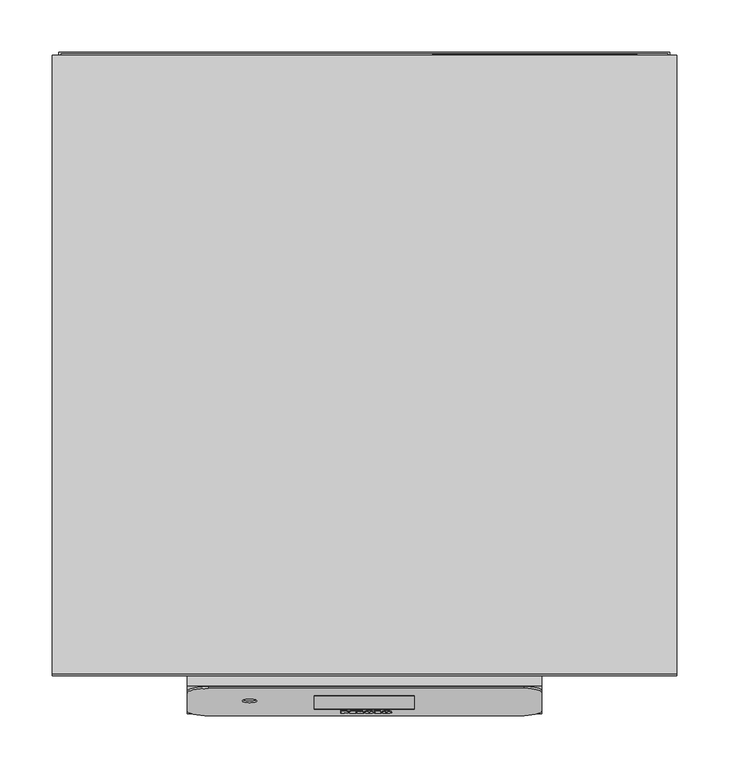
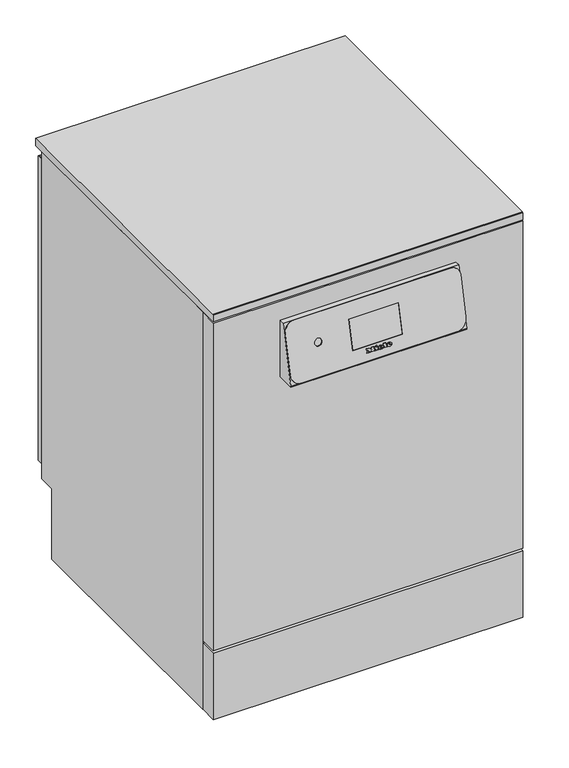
"""IFC4 building model written with IfcOpenShell, lengths in millimetres: proxy geometry, 12065520_DAC_PFD407DOS_LW : 61040782_DAC_12065520_PFD407DOS_LW."""

from ifc_helpers import new_model, si_unit, point, frame, frame_2d, origin, origin_with_axes, place, context, project, spatial, polyline, circle_curve, ellipse_curve, trimmed, segment, composite_curve, outline, extrude, faceted_brep, source, transform, mapped, element, save
from ifc_brep_helpers import plane_surface, cylinder_surface, revolved_surface, extruded_surface, advanced_brep


def specialty_equipment_e72f3e6c(model_context):
    return source(origin(), model_context, "Body", "SolidModel", [
        advanced_brep(
        [(20.656, -35.3539089, 679.552071), (20.656, -35.1721485, 680.339362), (26.008, -35.1721485, 680.339362), (16.696, -35.1721485, 680.339362), (18.896, -35.7804161, 677.7046654), (25.872, -35.3539089, 679.552071), (23.456, -35.3539089, 679.552071), (21.552, -35.5554651, 678.6790354), (20.656, -34.9417986, 681.337117), (20.656, -34.7456413, 682.1867677), (22.024, -34.7456413, 682.1867677), (22.024, -34.9417986, 681.337117), (20.656, -34.3795388, 679.3271199), (21.552, -34.581095, 678.4540844), (23.456, -34.3795388, 679.3271199), (25.872, -34.3795388, 679.3271199), (18.896, -34.806046, 677.4797143), (16.696, -34.1977784, 680.114411), (26.008, -34.1977784, 680.114411), (20.656, -34.1977784, 680.114411), (20.656, -33.9674285, 681.1121659), (22.024, -33.9674285, 681.1121659), (22.024, -33.7712712, 681.9618166), (20.656, -33.7712712, 681.9618166)],
        [
            (0, 1),
            (1, 2),
            (2, 3, ellipse_curve(frame((21.352, -35.1721485, 680.339362), z_axis=(0.0, -0.9743700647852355, 0.22495105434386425), x_axis=(-1.0, 0.0, 0.0)), 4.656, 3.848)),
            (3, 4, circle_curve(frame((19.7920436, -35.1109618, 680.6043907), z_axis=(0.0, -0.9743700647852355, 0.22495105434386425), x_axis=(0.0, -0.22495105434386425, -0.9743700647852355)), 3.1079688)),
            (4, 5, circle_curve(frame((21.2587936, -34.6358651, 682.6622603), z_axis=(0.0, -0.9743700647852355, 0.22495105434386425), x_axis=(0.0, -0.22495105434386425, -0.9743700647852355)), 5.6098607)),
            (5, 6),
            (6, 7, circle_curve(frame((21.9430588, -35.1865453, 680.2770023), z_axis=(0.0, 0.9743700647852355, -0.22495105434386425), x_axis=(0.0, -0.22495105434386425, -0.9743700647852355)), 1.6859795)),
            (7, 0, circle_curve(frame((21.552, -35.3539089, 679.552071), z_axis=(0.0, 0.9743700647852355, -0.22495105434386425), x_axis=(0.0, -0.22495105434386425, -0.9743700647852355)), 0.896)),
            (8, 9),
            (9, 10, circle_curve(frame((21.34, -34.7456413, 682.1867677), z_axis=(0.0, 0.9743700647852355, -0.22495105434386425), x_axis=(0.0, -0.22495105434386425, -0.9743700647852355)), 0.684)),
            (10, 11),
            (11, 8),
            (12, 13, circle_curve(frame((21.552, -34.3795388, 679.3271199), z_axis=(0.0, -0.9743700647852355, 0.22495105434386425), x_axis=(0.0, -0.22495105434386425, -0.9743700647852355)), 0.896)),
            (13, 14, circle_curve(frame((21.9430588, -34.2121753, 680.0520513), z_axis=(0.0, -0.9743700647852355, 0.22495105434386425), x_axis=(0.0, -0.22495105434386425, -0.9743700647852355)), 1.6859795)),
            (14, 15),
            (15, 16, circle_curve(frame((21.2587936, -33.6614951, 682.4373092), z_axis=(0.0, 0.9743700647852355, -0.22495105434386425), x_axis=(0.0, -0.22495105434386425, -0.9743700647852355)), 5.6098607)),
            (16, 17, circle_curve(frame((19.7920436, -34.1365917, 680.3794396), z_axis=(0.0, 0.9743700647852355, -0.22495105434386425), x_axis=(0.0, -0.22495105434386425, -0.9743700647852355)), 3.1079688)),
            (17, 18, ellipse_curve(frame((21.352, -34.1977784, 680.114411), z_axis=(0.0, 0.9743700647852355, -0.22495105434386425), x_axis=(-1.0, 0.0, 0.0)), 4.656, 3.848)),
            (18, 19),
            (19, 12),
            (20, 21),
            (21, 22),
            (22, 23, circle_curve(frame((21.34, -33.7712712, 681.9618166), z_axis=(0.0, -0.9743700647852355, 0.22495105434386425), x_axis=(0.0, -0.22495105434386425, -0.9743700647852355)), 0.684)),
            (23, 20),
            (0, 12),
            (19, 1),
            (18, 2),
            (5, 15),
            (14, 6),
            (17, 3),
            (13, 7),
            (16, 4),
            (8, 20),
            (23, 9),
            (22, 10),
            (21, 11),
        ],
        [
            plane_surface(frame((20.656, -35.1721485, 680.339362), z_axis=(0.0, -0.9743700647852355, 0.22495105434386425), x_axis=(0.0, 0.22495105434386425, 0.9743700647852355))),
            plane_surface(frame((20.656, -34.1977784, 680.114411), z_axis=(0.0, 0.9743700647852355, -0.22495105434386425), x_axis=(0.0, -0.22495105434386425, -0.9743700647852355))),
            plane_surface(frame((20.656, -35.3539089, 679.552071), z_axis=(1.0, 0.0, 0.0), x_axis=(0.0, 0.9743700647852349, -0.22495105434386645))),
            plane_surface(frame((20.656, -35.1721485, 680.339362), z_axis=(0.0, -0.22495105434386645, -0.9743700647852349), x_axis=(0.0, 0.9743700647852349, -0.22495105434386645))),
            plane_surface(frame((25.872, -35.3539089, 679.552071), z_axis=(0.0, 0.22495105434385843, 0.9743700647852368), x_axis=(0.0, 0.9743700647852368, -0.22495105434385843))),
            extruded_surface(trimmed(ellipse_curve(frame((21.352, -33.2234083, 679.8894599), z_axis=(0.0, -0.9743700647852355, 0.22495105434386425), x_axis=(-1.0, 0.0, 0.0)), 4.656, 3.848), [point((26.008, -33.2234083, 679.8894599))], [point((16.696, -33.2234083, 679.8894599))], True, "CARTESIAN"), (0.0, -0.9743700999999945, 0.2249510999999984), 1.0000000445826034),
            revolved_surface(polyline([(21.9430588, -34.59143807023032, 678.4092833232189), (21.9430588, -35.56580822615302, 678.6342343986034)]), (21.9430588, -34.2121753, 680.0520513), (0.0, 0.9743700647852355, -0.22495105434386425)),
            revolved_surface(polyline([(21.552, -34.581094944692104, 678.4540843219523), (21.552, -35.5554651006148, 678.679035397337)]), (21.552, -34.3795388, 679.3271199), (0.0, 0.9743700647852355, -0.22495105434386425)),
            cylinder_surface(frame((19.7920436, -34.1365917, 680.3794396), z_axis=(0.0, -0.9743700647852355, 0.22495105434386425), x_axis=(0.0, -0.22495105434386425, -0.9743700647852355)), 3.1079688),
            cylinder_surface(frame((21.2587936, -33.6614951, 682.4373092), z_axis=(0.0, -0.9743700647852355, 0.22495105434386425), x_axis=(0.0, -0.22495105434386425, -0.9743700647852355)), 5.6098607),
            plane_surface(frame((20.656, -34.9417986, 681.337117), z_axis=(1.0, 0.0, 0.0), x_axis=(0.0, 0.9743700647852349, -0.22495105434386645))),
            revolved_surface(polyline([(21.34, -33.925137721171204, 681.2953474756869), (21.34, -34.8995078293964, 681.5202985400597)]), (21.34, -33.7712712, 681.9618166), (0.0, 0.9743700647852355, -0.22495105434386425)),
            plane_surface(frame((22.024, -34.7456413, 682.1867677), z_axis=(-1.0, 0.0, 0.0), x_axis=(0.0, 0.9743700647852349, -0.22495105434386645))),
            plane_surface(frame((22.024, -34.9417986, 681.337117), z_axis=(0.0, 0.22495105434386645, 0.9743700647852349), x_axis=(0.0, 0.9743700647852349, -0.22495105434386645))),
        ],
        [
            (0, [[1, 2, 3, 4, 5, 6, 7, 8], [9, 10, 11, 12]]),
            (1, [[13, 14, 15, 16, 17, 18, 19, 20], [21, 22, 23, 24]]),
            (2, [[-1, 25, -20, 26]]),
            (3, [[-2, -26, -19, 27]]),
            (4, [[-6, 28, -15, 29]]),
            (5, [[-3, -27, -18, 30]]),
            (6, [[-7, -29, -14, 31]]),
            (7, [[-8, -31, -13, -25]]),
            (8, [[-4, -30, -17, 32]]),
            (9, [[-5, -32, -16, -28]]),
            (10, [[-9, 33, -24, 34]]),
            (11, [[-10, -34, -23, 35]]),
            (12, [[-11, -35, -22, 36]]),
            (13, [[-12, -36, -21, -33]]),
        ],
    ),
        advanced_brep(
        [(3.96, -35.3539089, 679.552071), (3.96, -35.1721485, 680.339362), (9.312, -35.1721485, 680.339362), (0.0, -35.1721485, 680.339362), (2.2, -35.7804161, 677.7046654), (9.176, -35.3539089, 679.552071), (6.76, -35.3539089, 679.552071), (4.856, -35.5554651, 678.6790354), (3.96, -34.9417986, 681.337117), (3.96, -34.7456413, 682.1867677), (5.328, -34.7456413, 682.1867677), (5.328, -34.9417986, 681.337117), (3.96, -34.3795388, 679.3271199), (4.856, -34.581095, 678.4540844), (6.76, -34.3795388, 679.3271199), (9.176, -34.3795388, 679.3271199), (2.2, -34.806046, 677.4797143), (0.0, -34.1977784, 680.114411), (9.312, -34.1977784, 680.114411), (3.96, -34.1977784, 680.114411), (3.96, -33.9674285, 681.1121659), (5.328, -33.9674285, 681.1121659), (5.328, -33.7712712, 681.9618166), (3.96, -33.7712712, 681.9618166)],
        [
            (0, 1),
            (1, 2),
            (2, 3, ellipse_curve(frame((4.656, -35.1721485, 680.339362), z_axis=(0.0, -0.9743700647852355, 0.22495105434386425), x_axis=(-1.0, 0.0, 0.0)), 4.656, 3.848)),
            (3, 4, circle_curve(frame((3.0960436, -35.1109618, 680.6043907), z_axis=(0.0, -0.9743700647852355, 0.22495105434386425), x_axis=(0.0, -0.22495105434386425, -0.9743700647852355)), 3.1079688)),
            (4, 5, circle_curve(frame((4.5627936, -34.6358651, 682.6622603), z_axis=(0.0, -0.9743700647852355, 0.22495105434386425), x_axis=(0.0, -0.22495105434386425, -0.9743700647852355)), 5.6098607)),
            (5, 6),
            (6, 7, circle_curve(frame((5.2470588, -35.1865453, 680.2770023), z_axis=(0.0, 0.9743700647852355, -0.22495105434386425), x_axis=(0.0, -0.22495105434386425, -0.9743700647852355)), 1.6859795)),
            (7, 0, circle_curve(frame((4.856, -35.3539089, 679.552071), z_axis=(0.0, 0.9743700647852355, -0.22495105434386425), x_axis=(0.0, -0.22495105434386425, -0.9743700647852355)), 0.896)),
            (8, 9),
            (9, 10, circle_curve(frame((4.644, -34.7456413, 682.1867677), z_axis=(0.0, 0.9743700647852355, -0.22495105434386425), x_axis=(0.0, -0.22495105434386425, -0.9743700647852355)), 0.684)),
            (10, 11),
            (11, 8),
            (12, 13, circle_curve(frame((4.856, -34.3795388, 679.3271199), z_axis=(0.0, -0.9743700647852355, 0.22495105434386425), x_axis=(0.0, -0.22495105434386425, -0.9743700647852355)), 0.896)),
            (13, 14, circle_curve(frame((5.2470588, -34.2121753, 680.0520513), z_axis=(0.0, -0.9743700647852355, 0.22495105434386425), x_axis=(0.0, -0.22495105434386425, -0.9743700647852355)), 1.6859795)),
            (14, 15),
            (15, 16, circle_curve(frame((4.5627936, -33.6614951, 682.4373092), z_axis=(0.0, 0.9743700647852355, -0.22495105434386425), x_axis=(0.0, -0.22495105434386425, -0.9743700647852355)), 5.6098607)),
            (16, 17, circle_curve(frame((3.0960436, -34.1365917, 680.3794396), z_axis=(0.0, 0.9743700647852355, -0.22495105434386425), x_axis=(0.0, -0.22495105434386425, -0.9743700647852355)), 3.1079688)),
            (17, 18, ellipse_curve(frame((4.656, -34.1977784, 680.114411), z_axis=(0.0, 0.9743700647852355, -0.22495105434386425), x_axis=(-1.0, 0.0, 0.0)), 4.656, 3.848)),
            (18, 19),
            (19, 12),
            (20, 21),
            (21, 22),
            (22, 23, circle_curve(frame((4.644, -33.7712712, 681.9618166), z_axis=(0.0, -0.9743700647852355, 0.22495105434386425), x_axis=(0.0, -0.22495105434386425, -0.9743700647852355)), 0.684)),
            (23, 20),
            (0, 12),
            (19, 1),
            (18, 2),
            (5, 15),
            (14, 6),
            (17, 3),
            (13, 7),
            (16, 4),
            (8, 20),
            (23, 9),
            (22, 10),
            (21, 11),
        ],
        [
            plane_surface(frame((3.96, -35.1721485, 680.339362), z_axis=(0.0, -0.9743700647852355, 0.22495105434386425), x_axis=(0.0, 0.22495105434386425, 0.9743700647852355))),
            plane_surface(frame((3.96, -34.1977784, 680.114411), z_axis=(0.0, 0.9743700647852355, -0.22495105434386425), x_axis=(0.0, -0.22495105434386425, -0.9743700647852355))),
            plane_surface(frame((3.96, -35.3539089, 679.552071), z_axis=(1.0, 0.0, 0.0), x_axis=(0.0, 0.9743700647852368, -0.22495105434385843))),
            plane_surface(frame((3.96, -35.1721485, 680.339362), z_axis=(0.0, -0.22495105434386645, -0.9743700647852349), x_axis=(0.0, 0.9743700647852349, -0.22495105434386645))),
            plane_surface(frame((9.176, -35.3539089, 679.552071), z_axis=(0.0, 0.22495105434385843, 0.9743700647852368), x_axis=(0.0, 0.9743700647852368, -0.22495105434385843))),
            extruded_surface(trimmed(ellipse_curve(frame((4.656, -33.2234083, 679.8894599), z_axis=(0.0, -0.9743700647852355, 0.22495105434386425), x_axis=(-1.0, 0.0, 0.0)), 4.656, 3.848), [point((9.312, -33.2234083, 679.8894599))], [point((0.0, -33.2234083, 679.8894599))], True, "CARTESIAN"), (0.0, -0.9743700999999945, 0.2249510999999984), 1.0000000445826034),
            revolved_surface(polyline([(5.2470588, -34.59143807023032, 678.4092833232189), (5.2470588, -35.56580822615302, 678.6342343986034)]), (5.2470588, -34.2121753, 680.0520513), (0.0, 0.9743700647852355, -0.22495105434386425)),
            revolved_surface(polyline([(4.856, -34.581094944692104, 678.4540843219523), (4.856, -35.5554651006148, 678.679035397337)]), (4.856, -34.3795388, 679.3271199), (0.0, 0.9743700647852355, -0.22495105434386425)),
            cylinder_surface(frame((3.0960436, -34.1365917, 680.3794396), z_axis=(0.0, -0.9743700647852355, 0.22495105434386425), x_axis=(0.0, -0.22495105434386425, -0.9743700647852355)), 3.1079688),
            cylinder_surface(frame((4.5627936, -33.6614951, 682.4373092), z_axis=(0.0, -0.9743700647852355, 0.22495105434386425), x_axis=(0.0, -0.22495105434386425, -0.9743700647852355)), 5.6098607),
            plane_surface(frame((3.96, -34.9417986, 681.337117), z_axis=(1.0, 0.0, 0.0), x_axis=(0.0, 0.9743700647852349, -0.22495105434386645))),
            revolved_surface(polyline([(4.644, -33.925137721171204, 681.2953474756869), (4.644, -34.8995078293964, 681.5202985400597)]), (4.644, -33.7712712, 681.9618166), (0.0, 0.9743700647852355, -0.22495105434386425)),
            plane_surface(frame((5.328, -34.7456413, 682.1867677), z_axis=(-1.0, 0.0, 0.0), x_axis=(0.0, 0.9743700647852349, -0.22495105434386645))),
            plane_surface(frame((5.328, -34.9417986, 681.337117), z_axis=(0.0, 0.22495105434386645, 0.9743700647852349), x_axis=(0.0, 0.9743700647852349, -0.22495105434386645))),
        ],
        [
            (0, [[1, 2, 3, 4, 5, 6, 7, 8], [9, 10, 11, 12]]),
            (1, [[13, 14, 15, 16, 17, 18, 19, 20], [21, 22, 23, 24]]),
            (2, [[-1, 25, -20, 26]]),
            (3, [[-2, -26, -19, 27]]),
            (4, [[-6, 28, -15, 29]]),
            (5, [[-3, -27, -18, 30]]),
            (6, [[-7, -29, -14, 31]]),
            (7, [[-8, -31, -13, -25]]),
            (8, [[-4, -30, -17, 32]]),
            (9, [[-5, -32, -16, -28]]),
            (10, [[-9, 33, -24, 34]]),
            (11, [[-10, -34, -23, 35]]),
            (12, [[-11, -35, -22, 36]]),
            (13, [[-12, -36, -21, -33]]),
        ],
    ),
        extrude(outline(polyline([(0.0, 0.0), (-0.0109087, -2.9993294), (-1.4390415, -2.9920868), (-1.4315307, 0.0), (0.0, 0.0)])), frame((-4.784, -33.1126145, 684.8147722), z_axis=(0.0, -0.9743700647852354, 0.22495105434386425), x_axis=(-0.42472021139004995, 0.20365373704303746, 0.8821212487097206)), (0.0, 0.0, 1.0), 1.0),
        extrude(outline(polyline([(-0.4933908, 2.4141097), (-2.7800844, -2.4601583), (-7.0459742, -0.4588767), (-7.4401146, -1.2990179), (-8.6568709, -0.728194), (-5.9760369, 4.9862153), (-4.7592806, 4.4153913), (-5.1636142, 3.5535222), (-2.1941494, 2.16044), (-1.7898157, 3.022309), (-0.4933908, 2.4141097)])), frame((-4.784, -33.1126145, 684.8147722), z_axis=(0.0, -0.9743700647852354, 0.22495105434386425), x_axis=(-0.42472021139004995, 0.20365373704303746, 0.8821212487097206)), (0.0, 0.0, 1.0), 1.0),
        extrude(outline(polyline([(0.0, 0.0), (0.0, -1.3039999), (-5.504, -1.3039999), (-5.504, 5.352), (-6.488, 5.352), (-6.488, 6.696), (0.0, 6.696), (0.0, 5.352), (-0.96, 5.352), (-0.96, 0.0), (0.0, 0.0)])), frame((9.76, -33.2997738, 684.0040963), z_axis=(0.0, -0.9743700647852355, 0.22495105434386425), x_axis=(-1.0, 0.0, 0.0)), (0.0, 0.0, 1.0), 1.0),
        extrude(outline(polyline([(0.0, 0.0), (0.0, -1.3039999), (-5.576, -1.3039999), (-7.92, 1.6960001), (-10.256, -1.3039999), (-15.128, -1.3039999), (-15.128, 0.0), (-14.112, 0.0), (-14.112, 5.352), (-15.128, 5.352), (-15.128, 6.696), (-8.744, 6.696), (-8.744, 5.352), (-9.728, 5.352), (-9.728, 1.8807777), (-6.136, 6.696), (-2.56, 1.9488752), (-2.56, 5.352), (-3.52, 5.352), (-3.52, 6.696), (0.0, 6.696), (0.0, 5.352), (-0.968, 5.352), (-0.968, 0.0), (0.0, 0.0)])), frame((-22.704, -33.2997738, 684.0040963), z_axis=(0.0, -0.9743700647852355, 0.22495105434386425), x_axis=(-1.0, 0.0, 0.0)), (0.0, 0.0, 1.0), 1.0),
        extrude(outline(polyline([(1.7745866, 832.3), (594.2, 832.3), (594.2, 817.0), (0.2, 817.0), (0.2, 830.7254134), (1.7745866, 832.3)])), frame((-299.0, 0.0, 0.0), z_axis=(1.0, 0.0, 0.0), x_axis=(0.0, 1.0, 0.0)), (0.0, 0.0, 1.0), 598.0),
        extrude(outline(polyline([(-0.1038681, 775.5857792), (-0.1038681, 660.0), (-36.1981904, 660.0), (-36.1981904, 662.5588517), (-10.1038681, 775.5857792), (-0.1038681, 775.5857792)])), frame((-169.8831565, 0.0, 0.0), z_axis=(1.0, 0.0, 0.0), x_axis=(0.0, 1.0, 0.0)), (0.0, 0.0, 1.0), 339.766313),
        extrude(outline(polyline([(299.0, 34.0), (299.0, 0.0), (-299.0, 0.0), (-299.0, 34.0), (299.0, 34.0)])), frame((0.0, 0.0, 4.5), z_axis=(0.0, 0.0, 1.0), x_axis=(1.0, 0.0, 0.0)), (0.0, 0.0, 1.0), 135.5),
        extrude(outline(polyline([(299.0, 34.0), (299.0, 0.0), (-299.0, 0.0), (-299.0, 34.0), (299.0, 34.0)])), frame((0.0, 0.0, 145.0), z_axis=(0.0, 0.0, 1.0), x_axis=(1.0, 0.0, 0.0)), (0.0, 0.0, 1.0), 670.0),
        advanced_brep(
        [(153.3281651, -12.0526082, 776.0356813), (-148.8831565, -12.0526082, 776.0356813), (-169.8831565, -16.7765804, 755.57391), (-169.8831565, -33.4229584, 683.4705252), (-148.8831565, -38.1469305, 663.0087538), (148.8831565, -38.1469305, 663.0087538), (169.8831565, -33.4229584, 683.4705252), (169.8831565, -15.776671, 759.9049933), (48.0, -18.9868916, 746.0), (48.0, -31.9155103, 690.0), (-48.0, -31.9155103, 690.0), (-48.0, -18.9868916, 746.0), (-102.8831565, -24.0088923, 724.2473253), (-116.8831565, -24.0088923, 724.2473253), (148.8831565, -36.1981904, 662.5588517), (169.8831565, -31.4742182, 683.0206231), (169.8831565, -13.8279308, 759.4550912), (153.3281651, -10.1038681, 775.5857792), (48.0, -16.9342834, 746.0), (48.0, -29.8629021, 690.0), (-48.0, -29.8629021, 690.0), (-48.0, -16.9342834, 746.0), (-148.8831565, -36.1981904, 662.5588517), (-169.8831565, -31.4742182, 683.0206231), (-169.8831565, -14.8278402, 755.1240079), (-148.8831565, -10.1038681, 775.5857792), (-116.8831565, -22.4281396, 723.8823798), (-102.8831565, -22.4281396, 723.8823798)],
        [
            (0, 1),
            (1, 2, circle_curve(frame((-148.8831565, -16.7765804, 755.57391), z_axis=(0.0, -0.9743700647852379, 0.22495105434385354), x_axis=(1.0, 0.0, 0.0)), 21.0)),
            (2, 3),
            (3, 4, circle_curve(frame((-148.8831565, -33.4229584, 683.4705252), z_axis=(0.0, -0.9743700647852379, 0.22495105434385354), x_axis=(1.0, 0.0, 0.0)), 21.0)),
            (4, 5),
            (5, 6, circle_curve(frame((148.8831565, -33.4229584, 683.4705252), z_axis=(0.0, -0.9743700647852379, 0.22495105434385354), x_axis=(1.0, 0.0, 0.0)), 21.0)),
            (6, 7),
            (7, 0, circle_curve(frame((153.3281651, -15.776671, 759.9049933), z_axis=(0.0, -0.9743700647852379, 0.22495105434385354), x_axis=(1.0, 0.0, 0.0)), 16.5549913)),
            (8, 9),
            (9, 10),
            (10, 11),
            (11, 8),
            (12, 13, circle_curve(frame((-109.8831565, -24.0088923, 724.2473253), z_axis=(0.0, 0.9743700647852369, -0.22495105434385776), x_axis=(1.0, 0.0, 0.0)), 7.0)),
            (13, 12, circle_curve(frame((-109.8831565, -24.0088923, 724.2473253), z_axis=(0.0, 0.9743700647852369, -0.22495105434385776), x_axis=(1.0, 0.0, 0.0)), 7.0)),
            (5, 14),
            (14, 15, circle_curve(frame((148.8831565, -31.4742182, 683.0206231), z_axis=(0.0, -0.9743700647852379, 0.22495105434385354), x_axis=(1.0, 0.0, 0.0)), 21.0)),
            (15, 6),
            (15, 16),
            (16, 7),
            (16, 17, circle_curve(frame((153.3281651, -13.8279308, 759.4550912), z_axis=(0.0, -0.9743700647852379, 0.22495105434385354), x_axis=(1.0, 0.0, 0.0)), 16.5549913)),
            (17, 0),
            (8, 18),
            (18, 19),
            (19, 9),
            (19, 20),
            (20, 10),
            (11, 21),
            (21, 18),
            (20, 21),
            (14, 22),
            (22, 23, circle_curve(frame((-148.8831565, -31.4742182, 683.0206231), z_axis=(0.0, 0.9743700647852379, -0.22495105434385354), x_axis=(1.0, 0.0, 0.0)), 21.0)),
            (23, 24),
            (24, 25, circle_curve(frame((-148.8831565, -14.8278402, 755.1240079), z_axis=(0.0, 0.9743700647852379, -0.22495105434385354), x_axis=(1.0, 0.0, 0.0)), 21.0)),
            (25, 17),
            (25, 1),
            (24, 2),
            (23, 3),
            (22, 4),
            (26, 27, circle_curve(frame((-109.8831565, -22.4281396, 723.8823798), z_axis=(0.0, -0.9743700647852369, 0.22495105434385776), x_axis=(1.0, 0.0, 0.0)), 7.0)),
            (27, 26, circle_curve(frame((-109.8831565, -22.4281396, 723.8823798), z_axis=(0.0, -0.9743700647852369, 0.22495105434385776), x_axis=(1.0, 0.0, 0.0)), 7.0)),
            (26, 13),
            (12, 27),
        ],
        [
            plane_surface(frame((-166.8819453, -12.0526082, 776.0356813), z_axis=(0.0, -0.9743700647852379, 0.22495105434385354), x_axis=(-1.0, 0.0, 0.0))),
            cylinder_surface(frame((148.8831565, -31.4742182, 683.0206231), z_axis=(0.0, -0.9743700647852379, 0.22495105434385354), x_axis=(1.0, 0.0, 0.0)), 21.0),
            plane_surface(frame((169.8831565, -33.4229584, 683.4705252), z_axis=(1.0000000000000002, 0.0, 0.0), x_axis=(0.0, 0.9743700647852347, -0.22495105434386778))),
            cylinder_surface(frame((153.3281651, -13.8279308, 759.4550912), z_axis=(0.0, -0.9743700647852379, 0.22495105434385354), x_axis=(1.0, 0.0, 0.0)), 16.5549913),
            plane_surface(frame((48.0, -31.9155103, 690.0), z_axis=(-1.0, 0.0, 0.0), x_axis=(0.0, 1.0, 0.0))),
            plane_surface(frame((48.0, -31.9155103, 690.0), z_axis=(0.0, 0.0, 1.0), x_axis=(-1.0, 0.0, 0.0))),
            plane_surface(frame((48.0, -16.9342834, 746.0), z_axis=(0.0, 0.0, -1.0), x_axis=(-1.0, 0.0, 0.0))),
            plane_surface(frame((-48.0, -31.9155103, 690.0), z_axis=(1.0, 0.0, 0.0), x_axis=(0.0, -1.0, 0.0))),
            plane_surface(frame((-166.8819453, -10.1038681, 775.5857792), z_axis=(0.0, 0.9743700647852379, -0.22495105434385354), x_axis=(1.0, 0.0, 0.0))),
            plane_surface(frame((153.3281651, -12.0526082, 776.0356813), z_axis=(0.0, 0.22495105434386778, 0.9743700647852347), x_axis=(0.0, 0.9743700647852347, -0.22495105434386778))),
            cylinder_surface(frame((-148.8831565, -14.8278402, 755.1240079), z_axis=(0.0, -0.9743700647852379, 0.22495105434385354), x_axis=(1.0, 0.0, 0.0)), 21.0),
            plane_surface(frame((-169.8831565, -16.7765804, 755.57391), z_axis=(-1.0, 0.0, 0.0), x_axis=(0.0, 0.9743700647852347, -0.22495105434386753))),
            cylinder_surface(frame((-148.8831565, -31.4742182, 683.0206231), z_axis=(0.0, -0.9743700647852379, 0.22495105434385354), x_axis=(1.0, 0.0, 0.0)), 21.0),
            plane_surface(frame((-148.8831565, -38.1469305, 663.0087538), z_axis=(0.0, -0.22495105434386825, -0.9743700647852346), x_axis=(0.0, 0.9743700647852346, -0.22495105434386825))),
            plane_surface(frame((-102.8831565, -22.4281396, 723.8823798), z_axis=(0.0, -0.9743700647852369, 0.2249510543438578), x_axis=(0.0, -0.2249510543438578, -0.9743700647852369))),
            revolved_surface(polyline([(-102.8831565, -24.008892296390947, 724.2473253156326), (-102.8831565, -22.4281396, 723.8823798)]), (-109.8831565, -22.4281396, 723.8823798), (0.0, -0.9743700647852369, 0.22495105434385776)),
        ],
        [
            (0, [[1, 2, 3, 4, 5, 6, 7, 8], [9, 10, 11, 12], [13, 14]]),
            (1, [[-6, 15, 16, 17]]),
            (2, [[-7, -17, 18, 19]]),
            (3, [[-8, -19, 20, 21]]),
            (4, [[22, 23, 24, -9]]),
            (5, [[-24, 25, 26, -10]]),
            (6, [[-22, -12, 27, 28]]),
            (7, [[-26, 29, -27, -11]]),
            (8, [[-20, -18, -16, 30, 31, 32, 33, 34], [-23, -28, -29, -25]]),
            (9, [[-1, -21, -34, 35]]),
            (10, [[-2, -35, -33, 36]]),
            (11, [[-3, -36, -32, 37]]),
            (12, [[-4, -37, -31, 38]]),
            (13, [[-5, -38, -30, -15]]),
            (14, [[39, 40]]),
            (15, [[-39, 41, -13, 42]]),
            (15, [[-40, -42, -14, -41]]),
        ],
    ),
        extrude(outline(polyline([(-29.8629021, 690.0), (-31.9155103, 690.0), (-18.9868916, 746.0), (-16.9342834, 746.0), (-29.8629021, 690.0)])), frame((-48.0, 0.0, 0.0), z_axis=(1.0, 0.0, 0.0), x_axis=(0.0, 1.0, 0.0)), (0.0, 0.0, 1.0), 96.0),
        extrude(outline(polyline([(35.0, 817.0), (575.0, 817.0), (575.0, 148.0), (541.0, 148.0), (541.0, 4.2000122), (35.0, 4.2000122), (35.0, 817.0)])), frame((-299.0, 0.0, 0.0), z_axis=(1.0, 0.0, 0.0), x_axis=(0.0, 1.0, 0.0)), (0.0, 0.0, 1.0), 598.0),
        extrude(outline(polyline([(-172.0947306, 541.0), (-252.9150967, 541.0), (-252.9150967, 546.8796322), (-172.0947306, 546.8796322), (-172.0947306, 541.0)])), frame((0.0, 0.0, 83.2113443), z_axis=(0.0, 0.0, 1.0), x_axis=(1.0, 0.0, 0.0)), (0.0, 0.0, 1.0), 9.5402229),
        extrude(outline(polyline([(-172.0947306, 541.0), (-252.9150967, 541.0), (-252.9150967, 546.8796322), (-172.0947306, 546.8796322), (-172.0947306, 541.0)])), frame((0.0, 0.0, 67.2113431), z_axis=(0.0, 0.0, 1.0), x_axis=(1.0, 0.0, 0.0)), (0.0, 0.0, 1.0), 9.5826234),
        extrude(outline(polyline([(-172.0947306, 541.0), (-252.9150967, 541.0), (-252.9150967, 546.8796322), (-172.0947306, 546.8796322), (-172.0947306, 541.0)])), frame((0.0, 0.0, 49.1113767), z_axis=(0.0, 0.0, 1.0), x_axis=(1.0, 0.0, 0.0)), (0.0, 0.0, 1.0), 11.5700235),
        faceted_brep([(292.4999939, 597.3069992, 792.0057337), (-292.5000061, 597.3069992, 792.0057337), (-292.5000061, 575.0, 792.0057337), (-291.0000061, 575.0, 792.0057337), (-291.0000061, 596.3069992, 792.0057337), (290.9999949, 596.3069992, 792.0057337), (290.9999949, 575.0, 792.0057337), (292.4999939, 575.0, 792.0057337), (292.4999939, 597.3069992, 170.291519), (292.4999939, 575.0, 170.291519), (290.9999949, 575.0, 170.291519), (290.9999949, 596.3069992, 170.291519), (-291.0000061, 596.3069992, 170.291519), (-291.0000061, 575.0, 170.291519), (-292.5000061, 575.0, 170.291519), (-292.5000061, 597.3069992, 170.291519), (-200.000102, 597.3069992, 319.6113699), (-200.000102, 597.3069992, 244.365213), (-125.000102, 597.3069992, 244.365213), (-125.000102, 597.3069992, 319.6113699), (-200.000102, 596.3069992, 244.365213), (-200.000102, 596.3069992, 319.6113699), (-125.000102, 596.3069992, 319.6113699), (-125.000102, 596.3069992, 244.365213)], [[[0, 1, 2, 3, 4, 5, 6, 7]], [[8, 9, 10, 11, 12, 13, 14, 15]], [[1, 0, 8, 15], [16, 17, 18, 19]], [[2, 1, 15, 14]], [[3, 2, 14, 13]], [[4, 3, 13, 12]], [[5, 4, 12, 11], [20, 21, 22, 23]], [[6, 5, 11, 10]], [[7, 6, 10, 9]], [[0, 7, 9, 8]], [[20, 17, 16, 21]], [[17, 20, 23, 18]], [[18, 23, 22, 19]], [[21, 16, 19, 22]]]),
        extrude(outline(polyline([(48.0999756, 96.1730873), (58.1456066, 98.9125818), (58.1456066, 97.6176372), (51.5433511, 96.028387), (49.5052848, 95.5378777), (51.3079066, 95.0130327), (58.1456066, 93.0215648), (58.1456066, 91.1551768), (53.1890099, 89.7081743), (49.5052848, 88.6315064), (51.4844899, 88.1557123), (58.1456066, 86.5517468), (58.1456066, 85.2568022), (48.0999756, 87.9987493), (48.0999756, 89.3402923), (55.850023, 91.7486931), (56.931596, 92.084692), (55.6292938, 92.4623842), (48.0999756, 94.6574134), (48.0999756, 96.1730873)])), frame((0.0, 571.0, 0.0), z_axis=(0.0, 1.0, 0.0), x_axis=(0.0, 0.0, 1.0)), (0.0, 0.0, 1.0), 1.0),
        extrude(outline(polyline([(48.0999756, 82.2033816), (58.1456066, 84.9428762), (58.1456066, 83.6479316), (51.5433511, 82.0586814), (49.5052848, 81.568172), (51.3079066, 81.0433271), (58.1456066, 79.0518592), (58.1456066, 77.1854712), (53.1890099, 75.7384687), (49.5052848, 74.6618007), (51.4844899, 74.1860067), (58.1456066, 72.5820412), (58.1456066, 71.2870966), (48.0999756, 74.0290437), (48.0999756, 75.3705867), (55.850023, 77.7789875), (56.931596, 78.1149864), (55.6292938, 78.4926786), (48.0999756, 80.6877078), (48.0999756, 82.2033816)])), frame((0.0, 571.0, 0.0), z_axis=(0.0, 1.0, 0.0), x_axis=(0.0, 0.0, 1.0)), (0.0, 0.0, 1.0), 1.0),
        extrude(outline(polyline([(56.599963, 201.5578418), (66.645594, 204.2973364), (66.645594, 203.0023917), (60.0433385, 201.4131415), (58.0052722, 200.9226322), (59.807894, 200.3977872), (66.645594, 198.4063193), (66.645594, 196.5399313), (61.6889973, 195.0929288), (58.0052722, 194.0162609), (59.9844773, 193.5404668), (66.645594, 191.9365013), (66.645594, 190.6415567), (56.599963, 193.3835038), (56.599963, 194.7250468), (64.3500104, 197.1334476), (65.4315834, 197.4694465), (64.1292812, 197.8471387), (56.599963, 200.0421679), (56.599963, 201.5578418)])), frame((0.0, 571.0, 0.0), z_axis=(0.0, 1.0, 0.0), x_axis=(0.0, 0.0, 1.0)), (0.0, 0.0, 1.0), 1.0),
        extrude(outline(polyline([(56.599963, 212.6163745), (66.645594, 212.6163745), (66.645594, 211.3606707), (61.728238, 211.3606707), (66.645594, 206.2103227), (66.645594, 204.4542993), (62.5155055, 208.7781391), (56.599963, 204.2973364), (56.599963, 205.8326305), (61.6669243, 209.6684135), (60.0531487, 211.3606707), (56.599963, 211.3606707), (56.599963, 212.6163745)])), frame((0.0, 571.0, 0.0), z_axis=(0.0, 1.0, 0.0), x_axis=(0.0, 0.0, 1.0)), (0.0, 0.0, 1.0), 1.0),
        extrude(outline(composite_curve([segment(trimmed(circle_curve(frame_2d((61.599963, 202.0998546)), 8.0), [point((61.599963, 194.0998546))], [point((61.599963, 210.0998546))], False, "CARTESIAN"), True, "CONTINUOUS"), segment(trimmed(circle_curve(frame_2d((61.599963, 202.0998546)), 8.0), [point((61.599963, 210.0998546))], [point((61.599963, 194.0998546))], False, "CARTESIAN"), True, "CONTINUOUS")], self_intersect=False)), frame((0.0, 541.0, 0.0), z_axis=(0.0, 1.0, 0.0), x_axis=(0.0, 0.0, 1.0)), (0.0, 0.0, 1.0), 30.0),
        extrude(outline(polyline([(61.1702758, 140.618963), (71.2159068, 140.618963), (71.2159068, 133.3986657), (69.960203, 133.3986657), (69.960203, 139.3632591), (66.9779062, 139.3632591), (66.9779062, 133.7125916), (65.7222024, 133.7125916), (65.7222024, 139.3632591), (62.4259797, 139.3632591), (62.4259797, 133.2417027), (61.1702758, 133.2417027), (61.1702758, 140.618963)])), frame((0.0, 571.0, 0.0), z_axis=(0.0, 1.0, 0.0), x_axis=(0.0, 0.0, 1.0)), (0.0, 0.0, 1.0), 1.0),
        extrude(outline(polyline([(61.1702758, 131.3581469), (71.2159068, 131.3581469), (71.2159068, 130.102443), (62.4259797, 130.102443), (62.4259797, 125.0796275), (61.1702758, 125.0796275), (61.1702758, 131.3581469)])), frame((0.0, 571.0, 0.0), z_axis=(0.0, 1.0, 0.0), x_axis=(0.0, 0.0, 1.0)), (0.0, 0.0, 1.0), 1.0),
        extrude(outline(polyline([(118.1398187, 18.2077062), (128.1854497, 18.2077062), (128.1854497, 14.7422578), (128.0407495, 12.9494462), (127.3221533, 11.4730132), (125.6053707, 10.283528), (123.2165903, 9.888668), (121.1895605, 10.1559956), (119.7266164, 10.8427087), (118.8154953, 11.7599611), (118.311497, 12.9604827), (118.1398187, 14.5754846), (118.1398187, 18.2077062)]), holes=[polyline([(119.3955226, 16.9520023), (119.3955226, 14.7299951), (119.5770111, 13.1137669), (120.0895933, 12.1817991), (121.3367133, 11.4178309), (123.2362106, 11.1443719), (125.6151809, 11.6802533), (126.728637, 12.9837819), (126.9297459, 14.7643307), (126.9297459, 16.9520023), (119.3955226, 16.9520023)])]), frame((0.0, 571.0, 0.0), z_axis=(0.0, 1.0, 0.0), x_axis=(0.0, 0.0, 1.0)), (0.0, 0.0, 1.0), 1.0),
        extrude(outline(polyline([(121.5930044, 8.6329642), (121.5930044, 7.3772603), (120.3360742, 6.9725901), (119.5414491, 5.9842138), (119.2385596, 4.4783502), (119.4678727, 3.1662377), (120.0981772, 2.3188828), (120.940627, 2.0405188), (121.7242156, 2.2489853), (122.2944327, 3.1024715), (122.7739056, 4.930845), (123.3931736, 6.8990137), (124.3275939, 7.9670977), (125.5759401, 8.3190382), (126.9971909, 7.8837112), (128.0002825, 6.6120657), (128.3424127, 4.7505828), (127.9843409, 2.7640201), (126.9321984, 1.4396449), (125.360116, 0.9417779), (125.360116, 2.1974818), (126.6501555, 2.9087203), (127.0867088, 4.7015319), (126.6550606, 6.4992486), (125.6127283, 7.0633343), (124.7420743, 6.6635692), (124.0406459, 4.6132402), (123.4103414, 2.391233), (122.3925346, 1.1759961), (120.9725101, 0.7848149), (119.4703253, 1.2348572), (118.3740369, 2.5298019), (117.9828557, 4.4292992), (118.4046938, 6.6721531), (119.6751129, 8.0909513), (121.5930044, 8.6329642)])), frame((0.0, 571.0, 0.0), z_axis=(0.0, 1.0, 0.0), x_axis=(0.0, 0.0, 1.0)), (0.0, 0.0, 1.0), 1.0),
        extrude(outline(composite_curve([segment(trimmed(circle_curve(frame_2d((126.8499756, 10.1811127)), 2.9851521), [point((126.8499756, 7.1959606))], [point((126.8499756, 13.1662647))], False, "CARTESIAN"), True, "CONTINUOUS"), segment(trimmed(circle_curve(frame_2d((126.8499756, 10.1811127)), 2.9851521), [point((126.8499756, 13.1662647))], [point((126.8499756, 7.1959606))], False, "CARTESIAN"), True, "CONTINUOUS")], self_intersect=False)), frame((0.0, 541.0, 0.0), z_axis=(0.0, 1.0, 0.0), x_axis=(0.0, 0.0, 1.0)), (0.0, 0.0, 1.0), 30.0),
        extrude(outline(composite_curve([segment(trimmed(circle_curve(frame_2d((117.0999756, 10.1811127)), 3.0), [point((117.0999756, 7.1811127))], [point((117.0999756, 13.1811127))], False, "CARTESIAN"), True, "CONTINUOUS"), segment(trimmed(circle_curve(frame_2d((117.0999756, 10.1811127)), 3.0), [point((117.0999756, 13.1811127))], [point((117.0999756, 7.1811127))], False, "CARTESIAN"), True, "CONTINUOUS")], self_intersect=False)), frame((0.0, 541.0, 0.0), z_axis=(0.0, 1.0, 0.0), x_axis=(0.0, 0.0, 1.0)), (0.0, 0.0, 1.0), 30.0),
        extrude(outline(composite_curve([segment(trimmed(circle_curve(frame_2d((107.3499443, 10.1811127)), 3.0), [point((107.3499443, 7.1811127))], [point((107.3499443, 13.1811127))], False, "CARTESIAN"), True, "CONTINUOUS"), segment(trimmed(circle_curve(frame_2d((107.3499443, 10.1811127)), 3.0), [point((107.3499443, 13.1811127))], [point((107.3499443, 7.1811127))], False, "CARTESIAN"), True, "CONTINUOUS")], self_intersect=False)), frame((0.0, 541.0, 0.0), z_axis=(0.0, 1.0, 0.0), x_axis=(0.0, 0.0, 1.0)), (0.0, 0.0, 1.0), 30.0),
        extrude(outline(composite_curve([segment(trimmed(circle_curve(frame_2d((136.5999756, 10.1811127)), 3.0), [point((136.5999756, 7.1811127))], [point((136.5999756, 13.1811127))], False, "CARTESIAN"), True, "CONTINUOUS"), segment(trimmed(circle_curve(frame_2d((136.5999756, 10.1811127)), 3.0), [point((136.5999756, 13.1811127))], [point((136.5999756, 7.1811127))], False, "CARTESIAN"), True, "CONTINUOUS")], self_intersect=False)), frame((0.0, 541.0, 0.0), z_axis=(0.0, 1.0, 0.0), x_axis=(0.0, 0.0, 1.0)), (0.0, 0.0, 1.0), 30.0),
        extrude(outline(polyline([(99.6239875, 19.6811122), (148.0, 19.6811122), (148.0, 1.1811127), (99.6239875, 1.1811127), (99.6239875, 19.6811122)]), holes=[polyline([(100.6239875, 18.6811122), (100.6239875, 2.1811127), (147.0, 2.1811127), (147.0, 18.6811122), (100.6239875, 18.6811122)])]), frame((0.0, 541.0, 0.0), z_axis=(0.0, 1.0, 0.0), x_axis=(0.0, 0.0, 1.0)), (0.0, 0.0, 1.0), 1.0),
        extrude(outline(polyline([(118.1398187, -7.1235653), (128.1854497, -7.1235653), (128.1854497, -10.5890137), (128.0407495, -12.3818253), (127.3221533, -13.8582584), (125.6053707, -15.0477435), (123.2165903, -15.4426035), (121.1895605, -15.1752759), (119.7266164, -14.4885629), (118.8154953, -13.5713104), (118.311497, -12.3707889), (118.1398187, -10.7557869), (118.1398187, -7.1235653)]), holes=[polyline([(119.3955226, -8.3792692), (119.3955226, -10.6012765), (119.5770111, -12.2175047), (120.0895933, -13.1494724), (121.3367133, -13.9134407), (123.2362106, -14.1868996), (125.6151809, -13.6510182), (126.728637, -12.3474897), (126.9297459, -10.5669408), (126.9297459, -8.3792692), (119.3955226, -8.3792692)])]), frame((0.0, 571.0, 0.0), z_axis=(0.0, 1.0, 0.0), x_axis=(0.0, 0.0, 1.0)), (0.0, 0.0, 1.0), 1.0),
        extrude(outline(polyline([(121.5930044, -16.6983074), (121.5930044, -17.9540113), (120.3360742, -18.3586815), (119.5414491, -19.3470578), (119.2385596, -20.8529214), (119.4678727, -22.1650338), (120.0981772, -23.0123887), (120.940627, -23.2907528), (121.7242156, -23.0822863), (122.2944327, -22.2288001), (122.7739056, -20.4004265), (123.3931736, -18.4322579), (124.3275939, -17.3641738), (125.5759401, -17.0122334), (126.9971909, -17.4475604), (128.0002825, -18.7192058), (128.3424127, -20.5806887), (127.9843409, -22.5672515), (126.9321984, -23.8916267), (125.360116, -24.3894936), (125.360116, -23.1337898), (126.6501555, -22.4225512), (127.0867088, -20.6297397), (126.6550606, -18.832023), (125.6127283, -18.2679372), (124.7420743, -18.6677023), (124.0406459, -20.7180313), (123.4103414, -22.9400386), (122.3925346, -24.1552754), (120.9725101, -24.5464566), (119.4703253, -24.0964143), (118.3740369, -22.8014697), (117.9828557, -20.9019723), (118.4046938, -18.6591184), (119.6751129, -17.2403202), (121.5930044, -16.6983074)])), frame((0.0, 571.0, 0.0), z_axis=(0.0, 1.0, 0.0), x_axis=(0.0, 0.0, 1.0)), (0.0, 0.0, 1.0), 1.0),
        extrude(outline(composite_curve([segment(trimmed(circle_curve(frame_2d((126.8499756, -15.1501589)), 2.9851521), [point((126.8499756, -18.135311))], [point((126.8499756, -12.1650068))], False, "CARTESIAN"), True, "CONTINUOUS"), segment(trimmed(circle_curve(frame_2d((126.8499756, -15.1501589)), 2.9851521), [point((126.8499756, -12.1650068))], [point((126.8499756, -18.135311))], False, "CARTESIAN"), True, "CONTINUOUS")], self_intersect=False)), frame((0.0, 541.0, 0.0), z_axis=(0.0, 1.0, 0.0), x_axis=(0.0, 0.0, 1.0)), (0.0, 0.0, 1.0), 30.0),
        extrude(outline(composite_curve([segment(trimmed(circle_curve(frame_2d((117.0999756, -15.1501589)), 3.0), [point((117.0999756, -18.1501589))], [point((117.0999756, -12.1501589))], False, "CARTESIAN"), True, "CONTINUOUS"), segment(trimmed(circle_curve(frame_2d((117.0999756, -15.1501589)), 3.0), [point((117.0999756, -12.1501589))], [point((117.0999756, -18.1501589))], False, "CARTESIAN"), True, "CONTINUOUS")], self_intersect=False)), frame((0.0, 541.0, 0.0), z_axis=(0.0, 1.0, 0.0), x_axis=(0.0, 0.0, 1.0)), (0.0, 0.0, 1.0), 30.0),
        extrude(outline(composite_curve([segment(trimmed(circle_curve(frame_2d((107.3499443, -15.1501589)), 3.0), [point((107.3499443, -18.1501589))], [point((107.3499443, -12.1501589))], False, "CARTESIAN"), True, "CONTINUOUS"), segment(trimmed(circle_curve(frame_2d((107.3499443, -15.1501589)), 3.0), [point((107.3499443, -12.1501589))], [point((107.3499443, -18.1501589))], False, "CARTESIAN"), True, "CONTINUOUS")], self_intersect=False)), frame((0.0, 541.0, 0.0), z_axis=(0.0, 1.0, 0.0), x_axis=(0.0, 0.0, 1.0)), (0.0, 0.0, 1.0), 30.0),
        extrude(outline(composite_curve([segment(trimmed(circle_curve(frame_2d((136.5999756, -15.1501589)), 3.0), [point((136.5999756, -18.1501589))], [point((136.5999756, -12.1501589))], False, "CARTESIAN"), True, "CONTINUOUS"), segment(trimmed(circle_curve(frame_2d((136.5999756, -15.1501589)), 3.0), [point((136.5999756, -12.1501589))], [point((136.5999756, -18.1501589))], False, "CARTESIAN"), True, "CONTINUOUS")], self_intersect=False)), frame((0.0, 541.0, 0.0), z_axis=(0.0, 1.0, 0.0), x_axis=(0.0, 0.0, 1.0)), (0.0, 0.0, 1.0), 30.0),
        extrude(outline(polyline([(99.6239875, -5.6501594), (148.0, -5.6501594), (148.0, -24.1501589), (99.6239875, -24.1501589), (99.6239875, -5.6501594)]), holes=[polyline([(100.6239875, -6.6501594), (100.6239875, -23.1501589), (147.0, -23.1501589), (147.0, -6.6501594), (100.6239875, -6.6501594)])]), frame((0.0, 541.0, 0.0), z_axis=(0.0, 1.0, 0.0), x_axis=(0.0, 0.0, 1.0)), (0.0, 0.0, 1.0), 1.0),
        extrude(outline(polyline([(294.0108337, -153.1353281), (304.0564648, -153.1353281), (304.0564648, -156.6007765), (303.9117645, -158.3935881), (303.1931683, -159.8700212), (301.4763857, -161.0595063), (299.0876053, -161.4543663), (297.0605755, -161.1870387), (295.5976314, -160.5003256), (294.6865103, -159.5830732), (294.182512, -158.3825516), (294.0108337, -156.7675497), (294.0108337, -153.1353281)]), holes=[polyline([(295.2665376, -154.391032), (295.2665376, -156.6130392), (295.4480261, -158.2292675), (295.9606083, -159.1612352), (297.2077283, -159.9252035), (299.1072256, -160.1986624), (301.4861959, -159.662781), (302.5996521, -158.3592524), (302.8007609, -156.5787036), (302.8007609, -154.391032), (295.2665376, -154.391032)])]), frame((0.0, 585.0, 0.0), z_axis=(0.0, 1.0, 0.0), x_axis=(0.0, 0.0, 1.0)), (0.0, 0.0, 1.0), 1.0),
        extrude(outline(polyline([(297.4640194, -162.7100702), (297.4640194, -163.965774), (296.2070893, -164.3704442), (295.4124641, -165.3588205), (295.1095746, -166.8646842), (295.3388877, -168.1767966), (295.9691922, -169.0241515), (296.811642, -169.3025155), (297.5952306, -169.094049), (298.1654477, -168.2405628), (298.6449206, -166.4121893), (299.2641886, -164.4440206), (300.1986089, -163.3759366), (301.4469551, -163.0239961), (302.8682059, -163.4593232), (303.8712975, -164.7309686), (304.2134277, -166.5924515), (303.8553559, -168.5790143), (302.8032134, -169.9033894), (301.231131, -170.4012564), (301.231131, -169.1455525), (302.5211706, -168.434314), (302.9577239, -166.6415024), (302.5260757, -164.8437857), (301.4837433, -164.2797), (300.6130893, -164.6794651), (299.9116609, -166.7297941), (299.2813565, -168.9518013), (298.2635496, -170.1670382), (296.8435251, -170.5582194), (295.3413403, -170.1081771), (294.2450519, -168.8132325), (293.8538708, -166.9137351), (294.2757088, -164.6708812), (295.5461279, -163.252083), (297.4640194, -162.7100702)])), frame((0.0, 585.0, 0.0), z_axis=(0.0, 1.0, 0.0), x_axis=(0.0, 0.0, 1.0)), (0.0, 0.0, 1.0), 1.0),
        extrude(outline(composite_curve([segment(trimmed(circle_curve(frame_2d((299.0108337, -161.6898108)), 35.0), [point((299.0108337, -196.6898108))], [point((299.0108337, -126.6898108))], False, "CARTESIAN"), True, "CONTINUOUS"), segment(trimmed(circle_curve(frame_2d((299.0108337, -161.6898108)), 35.0), [point((299.0108337, -126.6898108))], [point((299.0108337, -196.6898108))], False, "CARTESIAN"), True, "CONTINUOUS")], self_intersect=False)), frame((0.0, 575.0, 0.0), z_axis=(0.0, 1.0, 0.0), x_axis=(0.0, 0.0, 1.0)), (0.0, 0.0, 1.0), 10.0),
        extrude(outline(polyline([(134.5999756, -252.738078), (144.6456066, -252.738078), (144.6456066, -256.4610438), (144.5499573, -257.9620023), (144.0802946, -259.1821442), (143.1090861, -259.9730905), (141.7393388, -260.2723012), (139.5688351, -259.4641871), (138.6810132, -256.5468829), (138.6810132, -253.9937818), (134.5999756, -253.9937818), (134.5999756, -252.738078)]), holes=[polyline([(139.9367171, -253.9937818), (139.9367171, -256.6204593), (140.3977958, -258.4696795), (141.695193, -259.0165974), (142.7350728, -258.6940875), (143.3040636, -257.8467326), (143.3899027, -256.5910287), (143.3899027, -253.9937818), (139.9367171, -253.9937818)])]), frame((0.0, 571.0, 0.0), z_axis=(0.0, 1.0, 0.0), x_axis=(0.0, 0.0, 1.0)), (0.0, 0.0, 1.0), 1.0),
        extrude(outline(polyline([(134.5999756, -260.8290293), (144.6456066, -264.8389431), (144.6456066, -265.9082534), (134.5999756, -269.9181671), (134.5999756, -268.5913394), (137.7392353, -267.441095), (137.7392353, -263.3036489), (134.5999756, -262.155857), (134.5999756, -260.8290293)]), holes=[polyline([(138.9949392, -263.7647276), (138.9949392, -266.9824688), (141.4646536, -266.0774791), (143.3899027, -265.3735982), (141.6804777, -264.7481988), (138.9949392, -263.7647276)])]), frame((0.0, 571.0, 0.0), z_axis=(0.0, 1.0, 0.0), x_axis=(0.0, 0.0, 1.0)), (0.0, 0.0, 1.0), 1.0),
        extrude(outline(composite_curve([segment(trimmed(circle_curve(frame_2d((139.5999756, -260.9001532)), 8.0), [point((139.5999756, -268.9001532))], [point((139.5999756, -252.9001532))], False, "CARTESIAN"), True, "CONTINUOUS"), segment(trimmed(circle_curve(frame_2d((139.5999756, -260.9001532)), 8.0), [point((139.5999756, -252.9001532))], [point((139.5999756, -268.9001532))], False, "CARTESIAN"), True, "CONTINUOUS")], self_intersect=False)), frame((0.0, 541.0, 0.0), z_axis=(0.0, 1.0, 0.0), x_axis=(0.0, 0.0, 1.0)), (0.0, 0.0, 1.0), 30.0),
        extrude(outline(composite_curve([segment(trimmed(circle_curve(frame_2d((51.0, 85.0998392)), 8.0), [point((51.0, 77.0998392))], [point((51.0, 93.0998392))], False, "CARTESIAN"), True, "CONTINUOUS"), segment(trimmed(circle_curve(frame_2d((51.0, 85.0998392)), 8.0), [point((51.0, 93.0998392))], [point((51.0, 77.0998392))], False, "CARTESIAN"), True, "CONTINUOUS")], self_intersect=False)), frame((0.0, 541.0, 0.0), z_axis=(0.0, 1.0, 0.0), x_axis=(0.0, 0.0, 1.0)), (0.0, 0.0, 1.0), 30.0),
        extrude(outline(composite_curve([segment(trimmed(circle_curve(frame_2d((66.0, 134.0)), 8.0), [point((66.0, 126.0))], [point((66.0, 142.0))], False, "CARTESIAN"), True, "CONTINUOUS"), segment(trimmed(circle_curve(frame_2d((66.0, 134.0)), 8.0), [point((66.0, 142.0))], [point((66.0, 126.0))], False, "CARTESIAN"), True, "CONTINUOUS")], self_intersect=False)), frame((0.0, 541.0, 0.0), z_axis=(0.0, 1.0, 0.0), x_axis=(0.0, 0.0, 1.0)), (0.0, 0.0, 1.0), 30.0),
        extrude(outline(polyline([(-246.8707486, 541.0), (-246.8707486, 505.0), (-294.0966381, 505.0), (-294.0966381, 541.0), (-246.8707486, 541.0)])), origin_with_axes(), (0.0, 0.0, 1.0), 4.2000122),
        extrude(outline(polyline([(246.8707486, 541.0), (294.0966381, 541.0), (294.0966381, 505.0), (246.8707486, 505.0), (246.8707486, 541.0)])), origin_with_axes(), (0.0, 0.0, 1.0), 4.2000122),
        extrude(outline(composite_curve([segment(trimmed(circle_curve(frame_2d((-269.0, 35.0)), 16.477447), [point((-285.477447, 35.0))], [point((-252.522553, 35.0))], False, "CARTESIAN"), True, "CONTINUOUS"), segment(trimmed(circle_curve(frame_2d((-269.0, 35.0)), 16.477447), [point((-252.522553, 35.0))], [point((-285.477447, 35.0))], False, "CARTESIAN"), True, "CONTINUOUS")], self_intersect=False)), origin_with_axes(), (0.0, 0.0, 1.0), 4.2000122),
        extrude(outline(composite_curve([segment(trimmed(circle_curve(frame_2d((269.0, 35.0)), 16.477447), [point((252.522553, 35.0))], [point((285.477447, 35.0))], False, "CARTESIAN"), True, "CONTINUOUS"), segment(trimmed(circle_curve(frame_2d((269.0, 35.0)), 16.477447), [point((285.477447, 35.0))], [point((252.522553, 35.0))], False, "CARTESIAN"), True, "CONTINUOUS")], self_intersect=False)), origin_with_axes(), (0.0, 0.0, 1.0), 4.2000122),
        extrude(outline(polyline([(43.7403323, 550.3224589), (41.0008378, 560.3680899), (42.2957824, 560.3680899), (43.8850326, 553.7658343), (44.3755419, 551.7277681), (44.9003869, 553.5303898), (46.8918548, 560.3680899), (48.7582428, 560.3680899), (50.2052453, 555.4114931), (51.2819133, 551.7277681), (51.7577073, 553.7069732), (53.3616728, 560.3680899), (54.6566174, 560.3680899), (51.9146703, 550.3224589), (50.5731273, 550.3224589), (48.1647265, 558.0725062), (47.8287276, 559.1540793), (47.4510354, 557.851777), (45.2560062, 550.3224589), (43.7403323, 550.3224589)])), frame((0.0, 0.0, 94.3852284), z_axis=(0.0, 0.0, 1.0), x_axis=(1.0, 0.0, 0.0)), (0.0, 0.0, 1.0), 1.0),
        extrude(outline(polyline([(54.7424566, 550.3224589), (58.7523703, 560.3680899), (59.8216806, 560.3680899), (63.8315944, 550.3224589), (62.5047667, 550.3224589), (61.3545223, 553.4617185), (57.2170761, 553.4617185), (56.0692843, 550.3224589), (54.7424566, 550.3224589)]), holes=[polyline([(57.6781549, 554.7174224), (60.8958961, 554.7174224), (59.9909064, 557.1871369), (59.2870255, 559.112386), (58.6616261, 557.402961), (57.6781549, 554.7174224)])]), frame((0.0, 0.0, 94.3852284), z_axis=(0.0, 0.0, 1.0), x_axis=(1.0, 0.0, 0.0)), (0.0, 0.0, 1.0), 1.0),
        advanced_brep(
        [(52.1828095, 541.0, 118.3852589), (52.1828095, 541.0, 134.3852589), (52.1828095, 563.3224589, 134.3852589), (52.1828095, 547.3224589, 118.3852589), (52.1828095, 547.3224589, 95.3852284), (52.1828095, 563.3224589, 95.3852284)],
        [
            (0, 1, circle_curve(frame((52.1828095, 541.0, 126.3852589), z_axis=(0.0, -1.0, 0.0), x_axis=(0.0, 0.0, 1.0)), 8.0)),
            (1, 0, circle_curve(frame((52.1828095, 541.0, 126.3852589), z_axis=(0.0, -1.0, 0.0), x_axis=(0.0, 0.0, 1.0)), 8.0)),
            (2, 3, ellipse_curve(frame((52.1828095, 555.3224589, 126.3852589), z_axis=(0.0, 0.7071067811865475, -0.7071067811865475), x_axis=(0.0, 0.7071067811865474, 0.7071067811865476)), 11.3137085, 8.0)),
            (3, 4),
            (4, 5, circle_curve(frame((52.1828095, 555.3224589, 95.3852284), z_axis=(0.0, 0.0, 1.0), x_axis=(0.0, 1.0, 0.0)), 8.0)),
            (5, 2),
            (0, 3),
            (2, 1),
            (2, 3, ellipse_curve(frame((52.1828095, 555.3224589, 126.3852589), z_axis=(0.0, -0.7071067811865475, 0.7071067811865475), x_axis=(0.0, -0.7071067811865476, -0.7071067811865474)), 11.3137085, 8.0)),
            (4, 5, circle_curve(frame((52.1828095, 555.3224589, 95.3852284), z_axis=(0.0, 0.0, -1.0), x_axis=(0.0, 1.0, 0.0)), 8.0)),
        ],
        [
            plane_surface(frame((0.0, 541.0, 126.3852589), z_axis=(0.0, -1.0, 0.0), x_axis=(1.0, 0.0, 0.0))),
            cylinder_surface(frame((52.1828095, 555.3224589, 126.3852589), z_axis=(0.0, 0.0, 1.0), x_axis=(0.0, 1.0, 0.0)), 8.0),
            cylinder_surface(frame((52.1828095, 541.0, 126.3852589), z_axis=(0.0, -1.0, 0.0), x_axis=(0.0, 0.0, 1.0)), 8.0),
            plane_surface(frame((0.0, 555.3224589, 95.3852284), z_axis=(0.0, 0.0, -1.0), x_axis=(1.0, 0.0, 0.0))),
        ],
        [
            (0, [[1, 2]]),
            (1, [[3, 4, 5, 6]]),
            (2, [[-1, 7, -3, 8]]),
            (2, [[-2, -8, 9, -7]]),
            (3, [[10, -5]]),
            (1, [[-9, -6, -10, -4]]),
        ],
    ),
        extrude(outline(polyline([(138.0, 261.5580222), (148.0, 261.5580222), (148.0, 65.0), (85.2499443, 65.0), (85.2499443, 225.8557987), (138.0, 225.8557987), (138.0, 261.5580222)])), frame((0.0, 541.0, 0.0), z_axis=(0.0, 1.0, 0.0), x_axis=(0.0, 0.0, 1.0)), (0.0, 0.0, 1.0), 54.1251226),
    ])


if __name__ == "__main__":
    model = new_model("IFC4")
    model_context = context("Model", 3, world=origin())
    ifc_project = project(units=[si_unit("LENGTHUNIT", "METRE", prefix="MILLI")], contexts=[model_context])
    site = spatial("IfcSite", under=ifc_project)
    building = spatial("IfcBuilding", under=site)
    placement = place(None, origin())
    specialty_equipment_shape = specialty_equipment_e72f3e6c(model_context)
    element("IfcBuildingElementProxy", 1, Name="12065520_DAC_PFD407DOS_LW : 61040782_DAC_12065520_PFD407DOS_LW", ObjectType="12065520_DAC_PFD407DOS_LW : 61040782_DAC_12065520_PFD407DOS_LW", at=placement, inside=building, context=model_context, shape_type="MappedRepresentation", body=[
        mapped(specialty_equipment_shape, transform((0.0, 0.0, 0.0), x_axis=(1.0, 0.0, 0.0), y_axis=(0.0, 1.0, 0.0), z_axis=(0.0, 0.0, 1.0))),
    ])
    save(model, "model.ifc")
